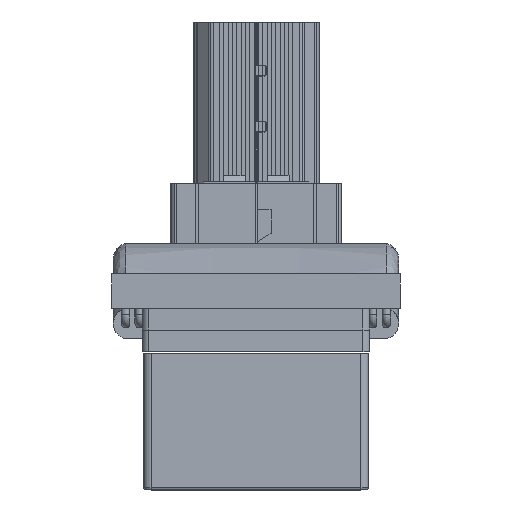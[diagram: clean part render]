
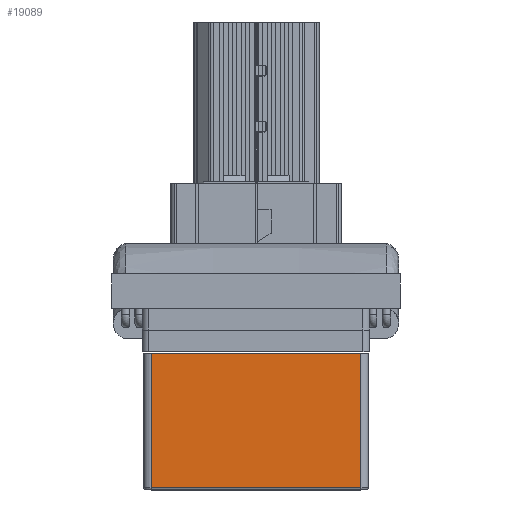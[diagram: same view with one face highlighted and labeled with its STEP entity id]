
A CAD part, front view. The second image highlights one B-rep face of the part: STEP entity #19089.
In plain terms, the highlighted planar face has unit normal (0, -1, 0).
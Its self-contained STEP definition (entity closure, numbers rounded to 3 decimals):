
#18020 = VERTEX_POINT('',#18021);
#18021 = CARTESIAN_POINT('',(-4.85,-5.4,6.3));
#18028 = EDGE_CURVE('',#18029,#18020,#18031,.T.);
#18029 = VERTEX_POINT('',#18030);
#18030 = CARTESIAN_POINT('',(4.85,-5.4,6.3));
#18031 = LINE('',#18032,#18033);
#18032 = CARTESIAN_POINT('',(5.2,-5.4,6.3));
#18033 = VECTOR('',#18034,1.);
#18034 = DIRECTION('',(-1.,0.,0.));
#19089 = ADVANCED_FACE('',(#19090),#19115,.F.);
#19090 = FACE_BOUND('',#19091,.T.);
#19091 = EDGE_LOOP('',(#19092,#19100,#19108,#19114));
#19092 = ORIENTED_EDGE('',*,*,#19093,.T.);
#19093 = EDGE_CURVE('',#18020,#19094,#19096,.T.);
#19094 = VERTEX_POINT('',#19095);
#19095 = CARTESIAN_POINT('',(-4.85,-5.4,0.1));
#19096 = LINE('',#19097,#19098);
#19097 = CARTESIAN_POINT('',(-4.85,-5.4,0.));
#19098 = VECTOR('',#19099,1.);
#19099 = DIRECTION('',(0.,0.,-1.));
#19100 = ORIENTED_EDGE('',*,*,#19101,.T.);
#19101 = EDGE_CURVE('',#19094,#19102,#19104,.T.);
#19102 = VERTEX_POINT('',#19103);
#19103 = CARTESIAN_POINT('',(4.85,-5.4,0.1));
#19104 = LINE('',#19105,#19106);
#19105 = CARTESIAN_POINT('',(4.85,-5.4,0.1));
#19106 = VECTOR('',#19107,1.);
#19107 = DIRECTION('',(1.,0.,0.));
#19108 = ORIENTED_EDGE('',*,*,#19109,.T.);
#19109 = EDGE_CURVE('',#19102,#18029,#19110,.T.);
#19110 = LINE('',#19111,#19112);
#19111 = CARTESIAN_POINT('',(4.85,-5.4,0.));
#19112 = VECTOR('',#19113,1.);
#19113 = DIRECTION('',(0.,0.,1.));
#19114 = ORIENTED_EDGE('',*,*,#18028,.T.);
#19115 = PLANE('',#19116);
#19116 = AXIS2_PLACEMENT_3D('',#19117,#19118,#19119);
#19117 = CARTESIAN_POINT('',(5.2,-5.4,0.));
#19118 = DIRECTION('',(0.,1.,0.));
#19119 = DIRECTION('',(0.,0.,1.));
